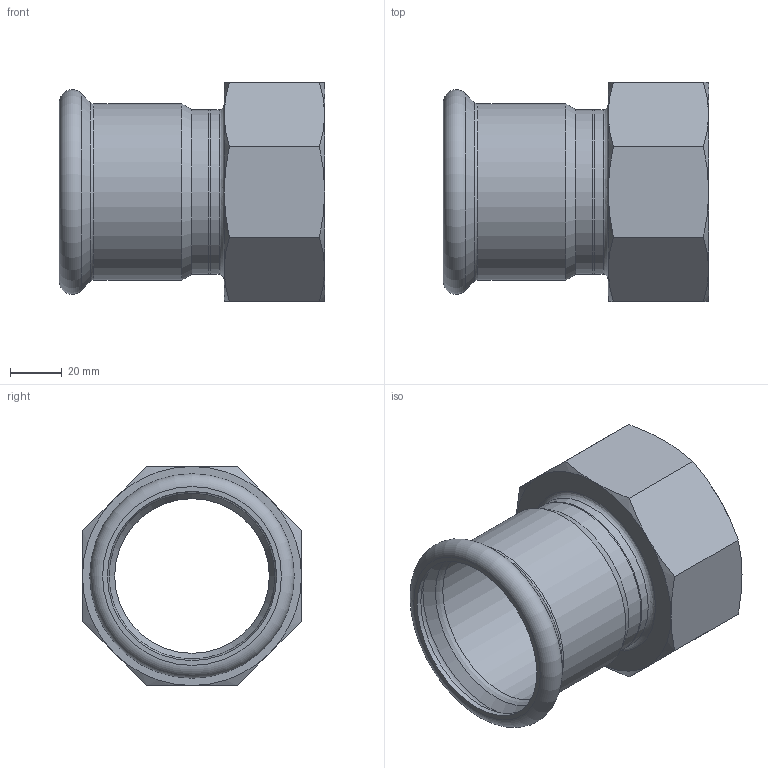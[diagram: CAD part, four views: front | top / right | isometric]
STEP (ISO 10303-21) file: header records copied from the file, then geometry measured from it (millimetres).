
FILE_DESCRIPTION((''),'2;1');
FILE_NAME('G:\Nirosan-Schmiedefeld\Technics\CAD\001 Serie 9.000\064\69270G64212(0).stp','2018-10-16T10:39:00',('herberg'),(''),'Autodesk Inventor 2009','Autodesk Inventor 2009','');
FILE_SCHEMA(('AUTOMOTIVE_DESIGN { 1 0 10303 214 1 1 1 1 }'));
Length unit declared in the file: millimetre
Products named in the file (3): 69270G64212(0); HM_6924364(0); IG64212(0)
Assembly tree (2 placements, depth 2):
  69270G64212(0)
    HM_6924364(0)
    IG64212(0)
Bounding box: 103 x 85 x 85 mm (x, y, z)
Volume: 108915.3 mm3; surface area: 55607.8 mm2
Topology: 2 solids, 2 shells, 49 faces, 100 edges, 58 vertices
Faces by surface type: cone 21, plane 14, cylinder 6, bspline 6, torus 2
Full cylindrical faces by diameter (mm): 60 x1, 64 x2, 64.4 x1, 65.7 x1, 68.4 x1
Entity records: 1362 total; most frequent: CARTESIAN_POINT 423, DIRECTION 184, ORIENTED_EDGE 160, AXIS2_PLACEMENT_3D 88, EDGE_CURVE 80, EDGE_LOOP 74, VERTEX_POINT 56, FACE_OUTER_BOUND 49
